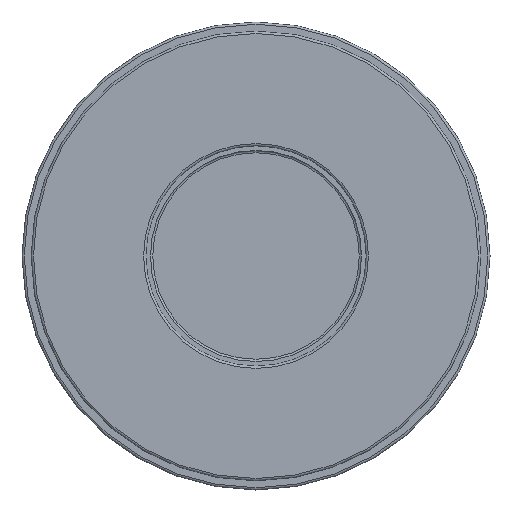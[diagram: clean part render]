
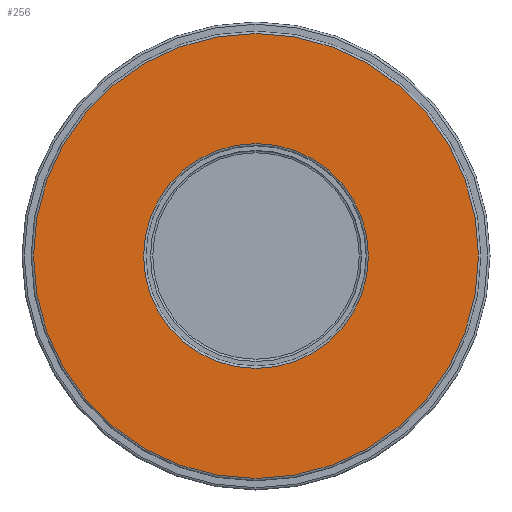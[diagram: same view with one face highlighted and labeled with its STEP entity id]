
A CAD part, front view. The second image highlights one B-rep face of the part: STEP entity #256.
In plain terms, the highlighted planar face has unit normal (0, -1, 0).
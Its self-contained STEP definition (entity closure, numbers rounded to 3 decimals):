
#256=ADVANCED_FACE('',(#3564,#3566),#3568,.T.);
#3564=FACE_BOUND('',#3565,.T.);
#3565=EDGE_LOOP('',(#4390,#4391));
#3566=FACE_BOUND('',#3567,.T.);
#3567=EDGE_LOOP('',(#4392,#4393));
#3568=PLANE('',#3569);
#3569=AXIS2_PLACEMENT_3D('',#3570,#3571,#3572);
#3570=CARTESIAN_POINT('',(0.,-20.,0.));
#3571=DIRECTION('',(0.,-1.,0.));
#3572=DIRECTION('',(0.,0.,1.));
#4390=ORIENTED_EDGE('',*,*,#4794,.F.);
#4391=ORIENTED_EDGE('',*,*,#4793,.F.);
#4392=ORIENTED_EDGE('',*,*,#4795,.T.);
#4393=ORIENTED_EDGE('',*,*,#4796,.T.);
#4793=EDGE_CURVE('',#5356,#5357,#5358,.T.);
#4794=EDGE_CURVE('',#5357,#5356,#5359,.T.);
#4795=EDGE_CURVE('',#5360,#5361,#5362,.T.);
#4796=EDGE_CURVE('',#5361,#5360,#5363,.T.);
#5356=VERTEX_POINT('',#9747);
#5357=VERTEX_POINT('',#9748);
#5358=CIRCLE('',#9749,48.5);
#5359=CIRCLE('',#9753,48.5);
#5360=VERTEX_POINT('',#9757);
#5361=VERTEX_POINT('',#9758);
#5362=CIRCLE('',#9759,24.5);
#5363=CIRCLE('',#9763,24.5);
#9747=CARTESIAN_POINT('',(0.,-20.,48.5));
#9748=CARTESIAN_POINT('',(0.,-20.,-48.5));
#9749=AXIS2_PLACEMENT_3D('',#9750,#9751,#9752);
#9750=CARTESIAN_POINT('',(0.,-20.,0.));
#9751=DIRECTION('',(0.,1.,0.));
#9752=DIRECTION('',(0.,0.,1.));
#9753=AXIS2_PLACEMENT_3D('',#9754,#9755,#9756);
#9754=CARTESIAN_POINT('',(0.,-20.,0.));
#9755=DIRECTION('',(0.,1.,0.));
#9756=DIRECTION('',(0.,0.,-1.));
#9757=CARTESIAN_POINT('',(0.,-20.,24.5));
#9758=CARTESIAN_POINT('',(0.,-20.,-24.5));
#9759=AXIS2_PLACEMENT_3D('',#9760,#9761,#9762);
#9760=CARTESIAN_POINT('',(0.,-20.,0.));
#9761=DIRECTION('',(0.,1.,0.));
#9762=DIRECTION('',(0.,0.,1.));
#9763=AXIS2_PLACEMENT_3D('',#9764,#9765,#9766);
#9764=CARTESIAN_POINT('',(0.,-20.,0.));
#9765=DIRECTION('',(0.,1.,0.));
#9766=DIRECTION('',(0.,0.,-1.));
